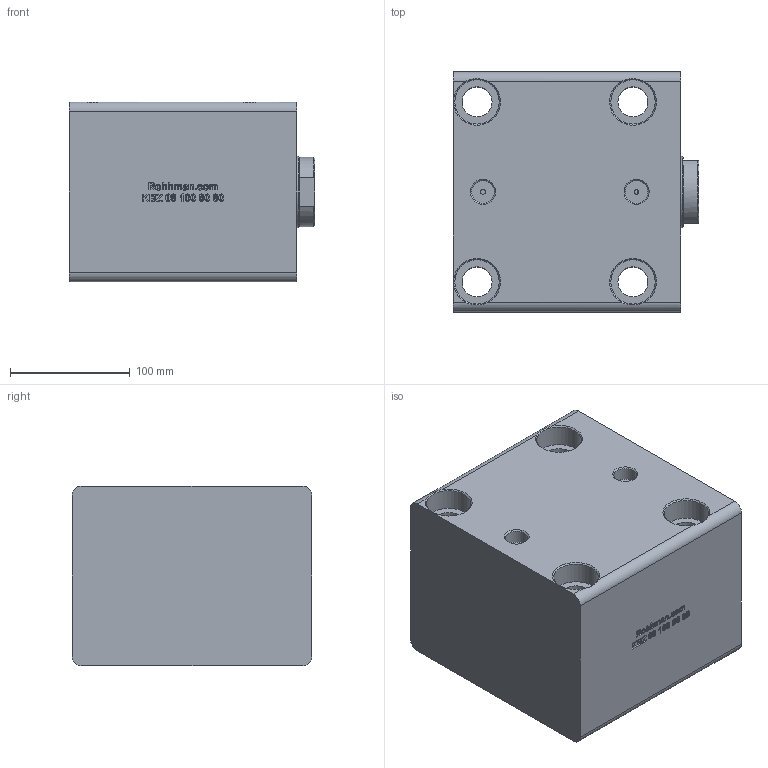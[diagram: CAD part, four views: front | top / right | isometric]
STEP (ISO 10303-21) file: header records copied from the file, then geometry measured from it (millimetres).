
FILE_DESCRIPTION(/* description */ (''),/* implementation_level */ '2;1');
FILE_NAME(/* name */ 'KBZ_08_100_60_80_WEB.step',/* time_stamp */ '2023-09-06T09:23:16+03:00',/* author */ (''),/* organization */ (''),/* preprocessor_version */ 'ST-DEVELOPER v20',/* originating_system */ 'Autodesk Translation Framework v12.9.0.99',/* authorisation */ '');
FILE_SCHEMA (('AUTOMOTIVE_DESIGN { 1 0 10303 214 3 1 1 }'));
Length unit declared in the file: millimetre
Products named in the file (6): KBZ_08_100_60_100_MONTAJ; KAPAK; KAPAK_1; GÖVDE; GÖVDE_1; Ø60_MİL
Assembly tree (5 placements, depth 3):
  KBZ_08_100_60_100_MONTAJ
    KAPAK
      KAPAK_1
    GÖVDE
      GÖVDE_1
    Ø60_MİL
Bounding box: 205 x 200 x 150 mm (x, y, z)
Volume: 4941812.8 mm3; surface area: 331131.9 mm2
Topology: 3 solids, 3 shells, 600 faces, 1626 edges, 1079 vertices
Faces by surface type: bspline 382, plane 172, cylinder 28, cone 18
Full cylindrical faces by diameter (mm): 4 x2, 5 x2, 18.901 x2, 25 x4, 37 x4, 37.464 x1, 60 x1, 60.5 x1, 100 x1, 110 x2, 120 x2
Entity records: 22650 total; most frequent: CARTESIAN_POINT 9943, ORIENTED_EDGE 3252, EDGE_CURVE 1626, DIRECTION 1387, VERTEX_POINT 1079, B_SPLINE_CURVE_WITH_KNOTS 774, LINE 765, VECTOR 765
